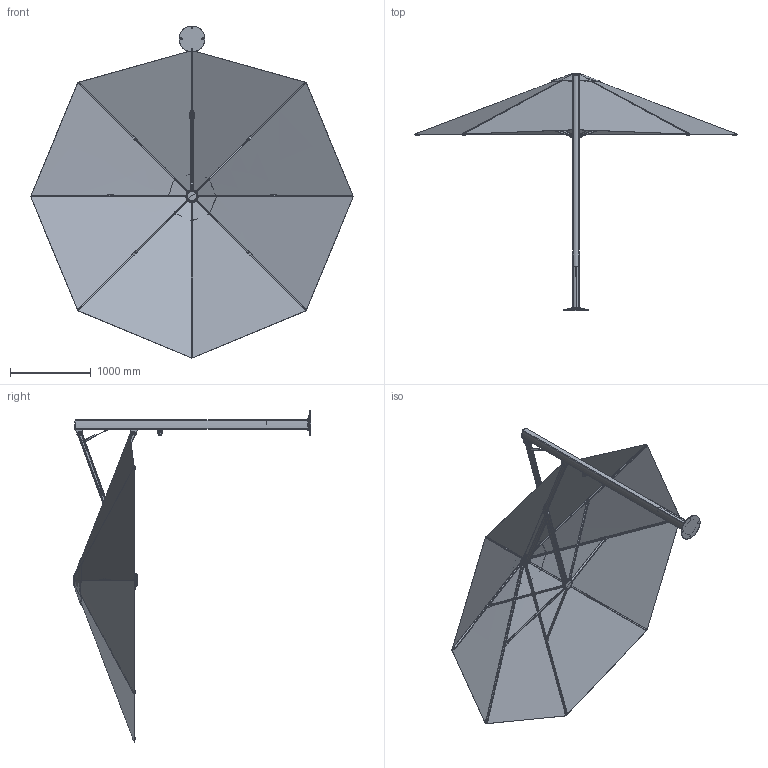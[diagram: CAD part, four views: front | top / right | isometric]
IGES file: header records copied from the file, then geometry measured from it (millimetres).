
Start section: SolidWorks IGES file using analytic representation for surfaces
Global section: file name: S:\RESEARCH and DEVELOPMENT\UnitySerenity Simple CAD Models\1. Export CAD\IGES Files\Serenity 4M Octagonal.IGS; native system: SolidWorks 2017; preprocessor: SolidWorks 2017; author: Peter; date: 200618.164753; units: millimetre
Bounding box: 3994.32 x 2937.74 x 4107.92 mm (x, y, z)
Surface area: 28889229.2 mm2 (no closed solid volume)
Topology: 0 solids, 0 shells, 1956 faces, 25787 edges, 25750 vertices
Faces by surface type: bspline 1021, revolution 935
